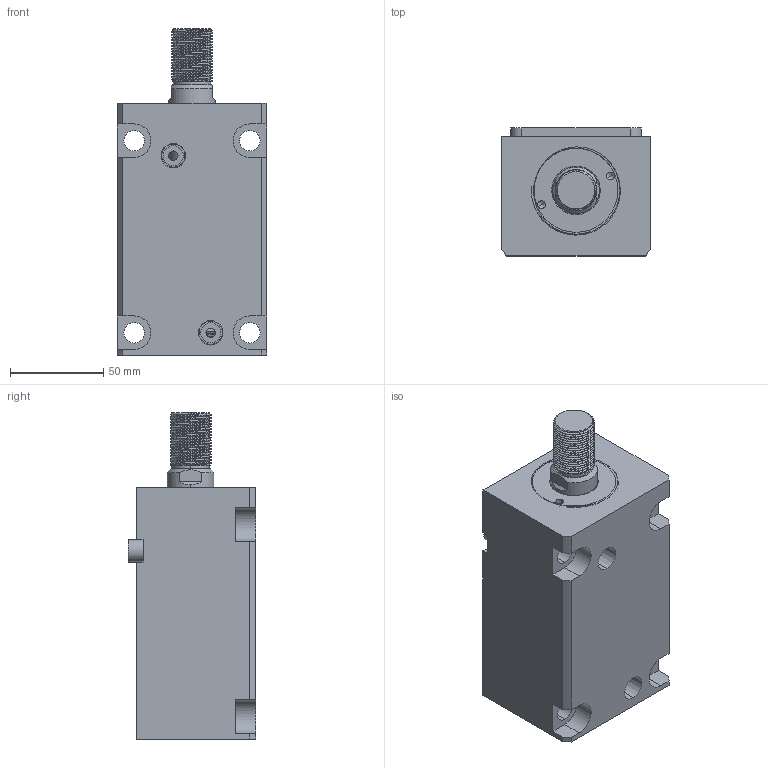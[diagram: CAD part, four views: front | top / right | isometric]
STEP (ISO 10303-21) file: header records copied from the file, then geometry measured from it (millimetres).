
FILE_DESCRIPTION (( 'STEP AP214' ), '1' );
FILE_NAME ('chtb-la40x80w_asm.STEP', '2018-06-02T08:33:59', ( 'Windows' ), ( 'Microsoft' ), 'SwSTEP 2.0', 'SolidWorks 2015', '' );
FILE_SCHEMA (( 'AUTOMOTIVE_DESIGN' ));
Length unit declared in the file: millimetre
Products named in the file (5): CHTB-SD40QG; CHTB-LA40PJ; CHTB-SD40X80WHSG; CHTB-LA40X80NBT; chtb-la40x80w_asm
Assembly tree (4 placements, depth 2):
  chtb-la40x80w_asm
    CHTB-LA40X80NBT
    CHTB-SD40X80WHSG
    CHTB-LA40PJ
    CHTB-SD40QG
Bounding box: 80 x 68.5 x 175 mm (x, y, z)
Volume: 607171.1 mm3; surface area: 106780.8 mm2
Topology: 4 solids, 5 shells, 205 faces, 559 edges, 373 vertices
Faces by surface type: cylinder 111, plane 52, bspline 16, cone 14, torus 12
Entity records: 13775 total; most frequent: CARTESIAN_POINT 8706, ORIENTED_EDGE 1106, DIRECTION 926, EDGE_CURVE 553, VERTEX_POINT 373, AXIS2_PLACEMENT_3D 363, EDGE_LOOP 234, ADVANCED_FACE 205
